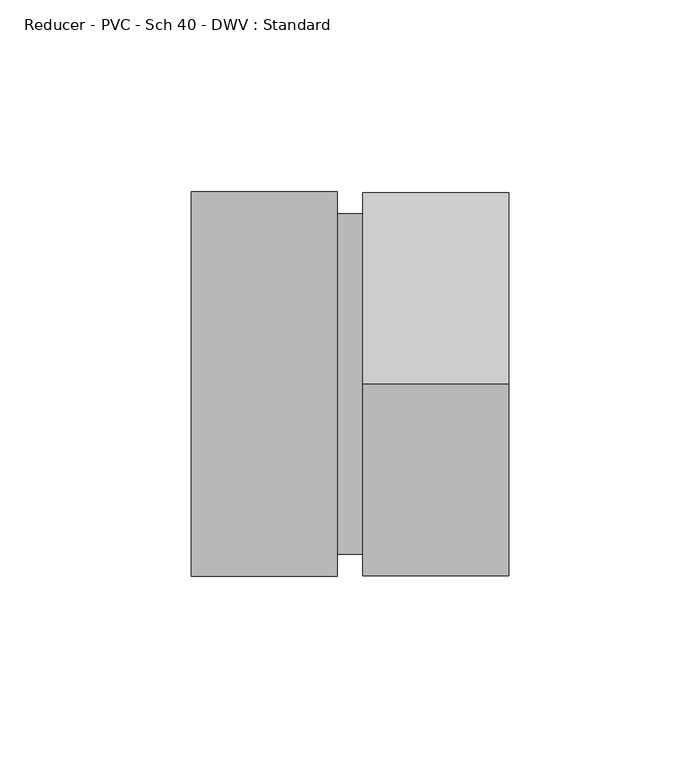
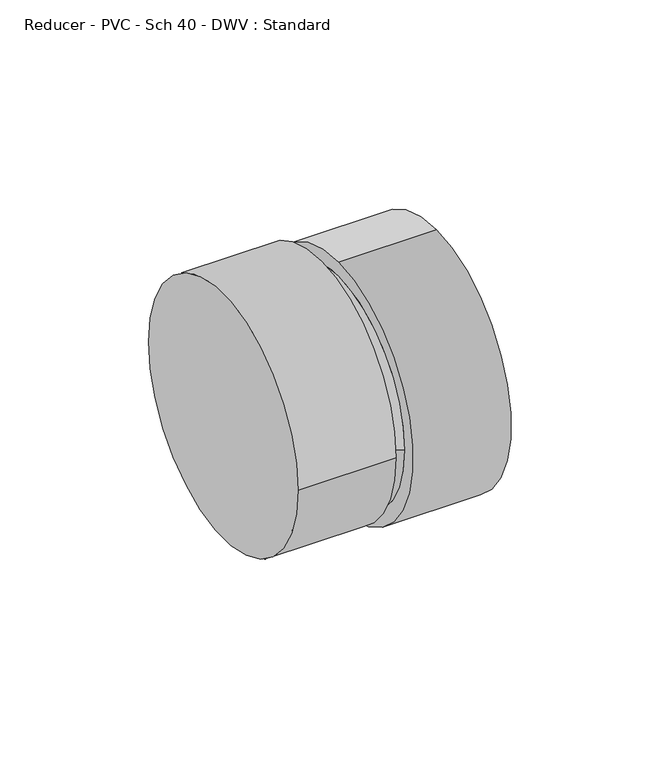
"""IFC4 building model written with IfcOpenShell, lengths in millimetres: pipe fitting geometry, Reducer - PVC - Sch 40 - DWV : Standard."""

from ifc_helpers import new_model, si_unit, point, frame, origin, place, context, project, spatial, circle_curve, trimmed, source, transform, mapped, element, save
from ifc_brep_helpers import plane_surface, cylinder_surface, extruded_surface, advanced_brep


def reducer_pvc_sch_40_dwv_standard_091619c8(model_context):
    return source(origin(), model_context, "Body", "AdvancedBrep", [
        advanced_brep(
        [(0.0, 50.2666, 0.0), (0.0, -50.2666, 0.0), (38.1, 50.2666, 0.0), (38.1, -50.2666, 0.0), (38.1, -44.45, 0.0), (38.1, 44.45, 0.0), (44.6920938, 44.4218789, -2.6997762), (44.6920938, -44.4781211, -2.6997762), (44.6920938, -0.0281211, 47.5668238), (44.6920938, -0.0281211, -52.9663762), (82.7920938, -0.0281211, 47.5668238), (82.7920938, -0.0281211, -52.9663762)],
        [
            (0, 1, circle_curve(frame((0.0, 0.0, 0.0), z_axis=(-1.0, 0.0, 0.0), x_axis=(0.0, -1.0, 0.0)), 50.2666)),
            (1, 0, circle_curve(frame((0.0, 0.0, 0.0), z_axis=(-1.0, 0.0, 0.0), x_axis=(0.0, -1.0, 0.0)), 50.2666)),
            (2, 3, circle_curve(frame((38.1, 0.0, 0.0), z_axis=(1.0, 0.0, 0.0), x_axis=(0.0, -1.0, 0.0)), 50.2666)),
            (3, 2, circle_curve(frame((38.1, 0.0, 0.0), z_axis=(1.0, 0.0, 0.0), x_axis=(0.0, -1.0, 0.0)), 50.2666)),
            (4, 5, circle_curve(frame((38.1, 0.0, 0.0), z_axis=(-1.0, 0.0, 0.0), x_axis=(0.0, -1.0, 0.0)), 44.45)),
            (5, 4, circle_curve(frame((38.1, 0.0, 0.0), z_axis=(-1.0, 0.0, 0.0), x_axis=(0.0, -1.0, 0.0)), 44.45)),
            (1, 3),
            (2, 0),
            (5, 6),
            (6, 7, circle_curve(frame((44.6920938, -0.0281211, -2.6997762), z_axis=(-1.0, 0.0, 0.0), x_axis=(0.0, -1.0, 0.0)), 44.45)),
            (7, 4),
            (7, 6, circle_curve(frame((44.6920938, -0.0281211, -2.6997762), z_axis=(-1.0, 0.0, 0.0), x_axis=(0.0, -1.0, 0.0)), 44.45)),
            (8, 9, circle_curve(frame((44.6920938, -0.0281211, -2.6997762), z_axis=(-1.0, 0.0, 0.0), x_axis=(0.0, 0.0, -1.0)), 50.2666)),
            (9, 8, circle_curve(frame((44.6920938, -0.0281211, -2.6997762), z_axis=(-1.0, 0.0, 0.0), x_axis=(0.0, 0.0, -1.0)), 50.2666)),
            (10, 11, circle_curve(frame((82.7920938, -0.0281211, -2.6997762), z_axis=(1.0, 0.0, 0.0), x_axis=(0.0, 0.0, -1.0)), 50.2666)),
            (11, 10, circle_curve(frame((82.7920938, -0.0281211, -2.6997762), z_axis=(1.0, 0.0, 0.0), x_axis=(0.0, 0.0, -1.0)), 50.2666)),
            (9, 11),
            (10, 8),
        ],
        [
            plane_surface(frame((0.0, 0.0, 0.0), z_axis=(-1.0, 0.0, 0.0), x_axis=(0.0, 0.0, 1.0))),
            plane_surface(frame((38.1, 0.0, 0.0), z_axis=(1.0, 0.0, 0.0), x_axis=(0.0, 0.0, 1.0))),
            cylinder_surface(frame((0.0, 0.0, 0.0), z_axis=(-1.0, 0.0, 0.0), x_axis=(0.0, -1.0, 0.0)), 50.2666),
            extruded_surface(trimmed(circle_curve(frame((44.6920938, -0.0281211, -2.6997762), z_axis=(-1.0, 0.0, 0.0), x_axis=(0.0, -1.0, 0.0)), 44.45), [point((44.6920938, 44.4218789, -2.6997762))], [point((44.6920938, -44.4781211, -2.6997762))], True, "CARTESIAN"), (-6.592093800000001, 0.0281211, 2.6997762), 7.1235723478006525),
            extruded_surface(trimmed(circle_curve(frame((44.6920938, -0.0281211, -2.6997762), z_axis=(-1.0, 0.0, 0.0), x_axis=(0.0, -1.0, 0.0)), 44.45), [point((44.6920938, -44.4781211, -2.6997762))], [point((44.6920938, 44.4218789, -2.6997762))], True, "CARTESIAN"), (-6.592093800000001, 0.0281211, 2.6997762), 7.1235723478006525),
            plane_surface(frame((44.6920938, -0.0281211, -2.6997762), z_axis=(-1.0, 0.0, 0.0), x_axis=(0.0, -1.0, 0.0))),
            plane_surface(frame((82.7920938, -0.0281211, -2.6997762), z_axis=(1.0, 0.0, 0.0), x_axis=(0.0, -1.0, 0.0))),
            cylinder_surface(frame((44.6920938, -0.0281211, -2.6997762), z_axis=(-1.0, 0.0, 0.0), x_axis=(0.0, 0.0, -1.0)), 50.2666),
        ],
        [
            (0, [[1, 2]]),
            (1, [[3, 4], [5, 6]]),
            (2, [[7, -3, 8, -2]]),
            (2, [[-8, -4, -7, -1]]),
            (3, [[-6, 9, 10, 11]]),
            (4, [[12, -9, -5, -11]]),
            (5, [[13, 14], [-12, -10]]),
            (6, [[15, 16]]),
            (7, [[17, -15, 18, -14]]),
            (7, [[-18, -16, -17, -13]]),
        ],
    ),
    ])


if __name__ == "__main__":
    model = new_model("IFC4")
    model_context = context("Model", 3, world=origin())
    ifc_project = project(units=[si_unit("LENGTHUNIT", "METRE", prefix="MILLI")], contexts=[model_context])
    site = spatial("IfcSite", under=ifc_project)
    building = spatial("IfcBuilding", under=site)
    placement = place(None, origin())
    reducer_pvc_sch_40_dwv_standard_shape = reducer_pvc_sch_40_dwv_standard_091619c8(model_context)
    element("IfcPipeFitting", 1, ObjectType="Reducer - PVC - Sch 40 - DWV : Standard", at=placement, inside=building, context=model_context, shape_type="MappedRepresentation", body=[
        mapped(reducer_pvc_sch_40_dwv_standard_shape, transform((0.0, 0.0, 0.0), x_axis=(1.0, 0.0, 0.0), y_axis=(0.0, 1.0, 0.0), z_axis=(0.0, 0.0, 1.0))),
    ])
    save(model, "model.ifc")
